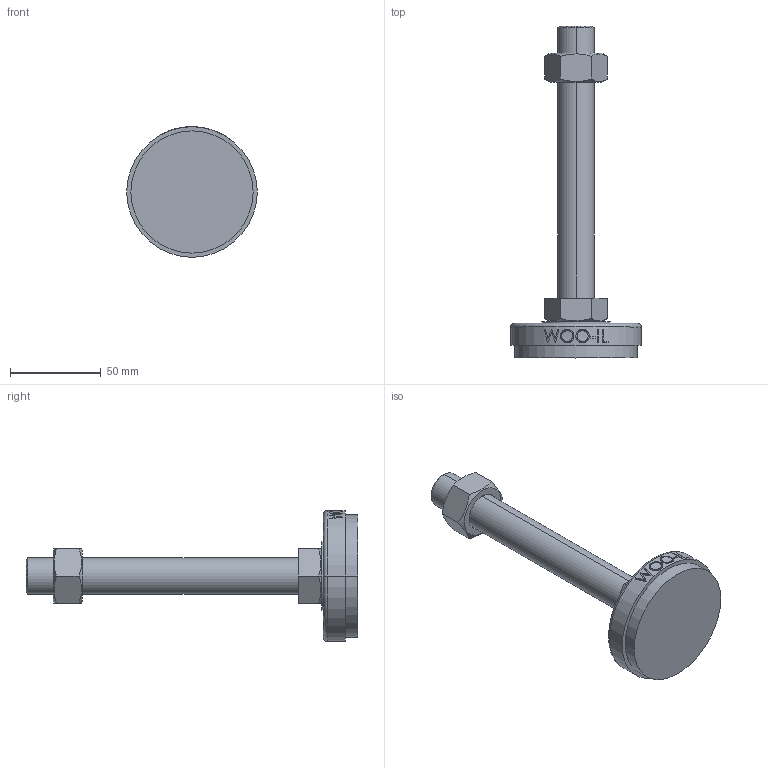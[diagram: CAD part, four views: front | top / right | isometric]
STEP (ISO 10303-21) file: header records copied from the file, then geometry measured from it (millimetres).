
FILE_DESCRIPTION (( 'STEP AP214' ), '1' );
FILE_NAME ('NS72-M20-150.step', '2021-01-11T05:48:26', ( '' ), ( '' ), 'SwSTEP 2.0', 'SolidWorks 2019', '' );
FILE_SCHEMA (( 'AUTOMOTIVE_DESIGN' ));
Length unit declared in the file: millimetre
Products named in the file (2): NS72-M20-150
Bounding box: 72 x 183 x 72 mm (x, y, z)
Volume: 139208 mm3; surface area: 27954.3 mm2
Topology: 3 solids, 3 shells, 96 faces, 227 edges, 148 vertices
Faces by surface type: plane 48, cylinder 18, bspline 16, cone 12, torus 2
Entity records: 4306 total; most frequent: CARTESIAN_POINT 2161, ORIENTED_EDGE 454, DIRECTION 381, EDGE_CURVE 227, VERTEX_POINT 148, AXIS2_PLACEMENT_3D 142, EDGE_LOOP 109, LINE 97
